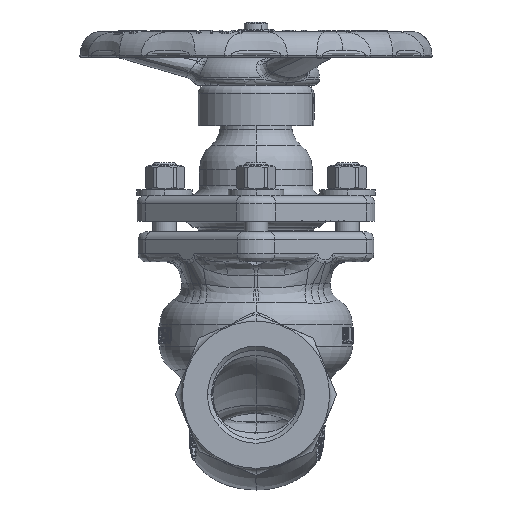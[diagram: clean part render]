
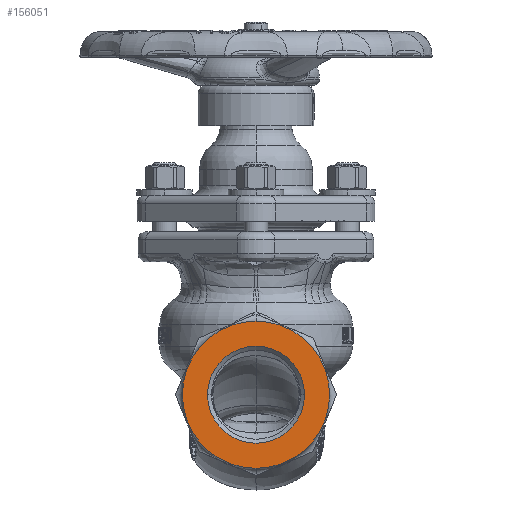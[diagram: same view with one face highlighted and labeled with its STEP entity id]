
A CAD part, left-side view. The second image highlights one B-rep face of the part: STEP entity #156051.
In plain terms, the highlighted planar face has unit normal (-1, 0, 0).
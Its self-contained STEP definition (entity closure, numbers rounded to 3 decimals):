
#34467=CARTESIAN_POINT('',(-92.5,0.,0.));
#34468=DIRECTION('',(1.,0.,0.));
#34469=DIRECTION('',(0.,-1.,0.));
#34470=AXIS2_PLACEMENT_3D('',#34467,#34468,#34469);
#34472=CARTESIAN_POINT('',(-92.5,0.,0.));
#34473=DIRECTION('',(1.,0.,0.));
#34474=DIRECTION('',(0.,1.,0.));
#34475=AXIS2_PLACEMENT_3D('',#34472,#34473,#34474);
#34477=CARTESIAN_POINT('',(-92.5,0.,0.));
#34478=DIRECTION('',(-1.,0.,0.));
#34479=DIRECTION('',(0.,0.,-1.));
#34480=AXIS2_PLACEMENT_3D('',#34477,#34478,#34479);
#34611=CARTESIAN_POINT('',(-92.5,0.,0.));
#34612=DIRECTION('',(-1.,0.,0.));
#34613=DIRECTION('',(0.,0.,1.));
#34614=AXIS2_PLACEMENT_3D('',#34611,#34612,#34613);
#69099=CARTESIAN_POINT('',(-92.5,0.,-37.101));
#69100=CARTESIAN_POINT('',(-92.5,0.,37.101));
#69101=VERTEX_POINT('',#69099);
#69102=VERTEX_POINT('',#69100);
#69127=CARTESIAN_POINT('',(-92.5,-24.423,0.));
#69128=CARTESIAN_POINT('',(-92.5,24.423,0.));
#69129=VERTEX_POINT('',#69127);
#69130=VERTEX_POINT('',#69128);
#156035=CARTESIAN_POINT('',(-92.5,0.,0.));
#156036=DIRECTION('',(-1.,0.,0.));
#156037=DIRECTION('',(0.,0.,1.));
#156038=AXIS2_PLACEMENT_3D('',#156035,#156036,#156037);
#156039=PLANE('',#156038);
#156041=ORIENTED_EDGE('',*,*,#156040,.F.);
#156043=ORIENTED_EDGE('',*,*,#156042,.F.);
#156044=EDGE_LOOP('',(#156041,#156043));
#156045=FACE_OUTER_BOUND('',#156044,.F.);
#156046=ORIENTED_EDGE('',*,*,#156025,.F.);
#156048=ORIENTED_EDGE('',*,*,#156047,.F.);
#156049=EDGE_LOOP('',(#156046,#156048));
#156050=FACE_BOUND('',#156049,.F.);
#156051=ADVANCED_FACE('',(#156045,#156050),#156039,.T.);
#34471=CIRCLE('',#34470,24.423);
#34476=CIRCLE('',#34475,24.423);
#34481=CIRCLE('',#34480,37.101);
#34615=CIRCLE('',#34614,37.101);
#156025=EDGE_CURVE('',#69129,#69130,#34471,.T.);
#156040=EDGE_CURVE('',#69101,#69102,#34481,.T.);
#156042=EDGE_CURVE('',#69102,#69101,#34615,.T.);
#156047=EDGE_CURVE('',#69130,#69129,#34476,.T.);
